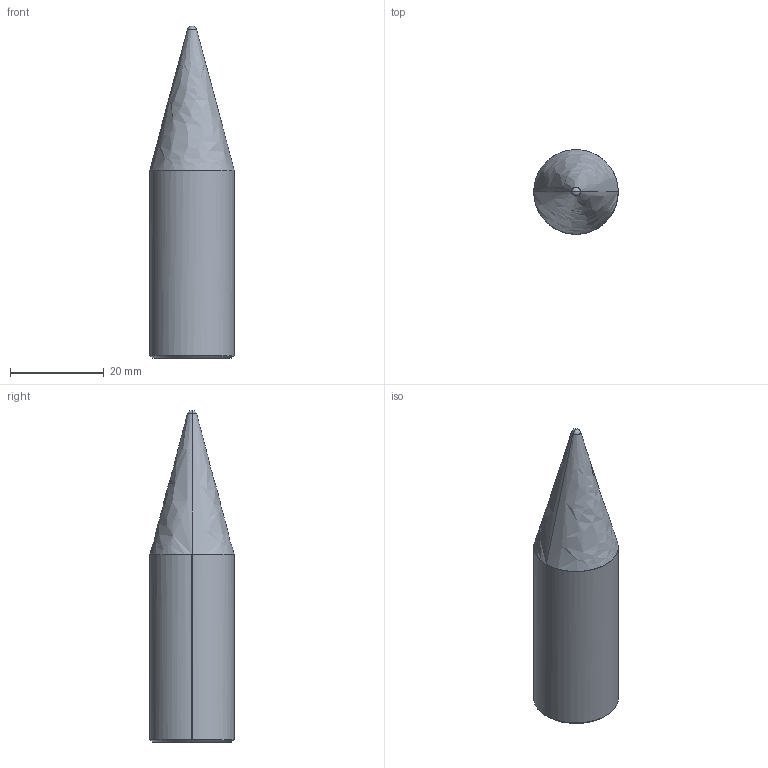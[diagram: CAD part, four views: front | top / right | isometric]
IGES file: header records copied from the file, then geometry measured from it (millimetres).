
Global section: file name: E:\UnigraphicsGraphicData\MISUMI_PRESS-PARTS\IGES\3d_snsth20-p18.00-b40_02979_r00.igs; native system: NX V5.0; preprocessor: UGS NX IGES V5.0; author: MISUMI; date: 20110105.162856; units: millimetre
Bounding box: 18 x 17.98 x 70.72 mm (x, y, z)
Surface area: 3878.9 mm2 (no closed solid volume)
Topology: 0 solids, 0 shells, 12 faces, 64 edges, 62 vertices
Faces by surface type: bspline 12
